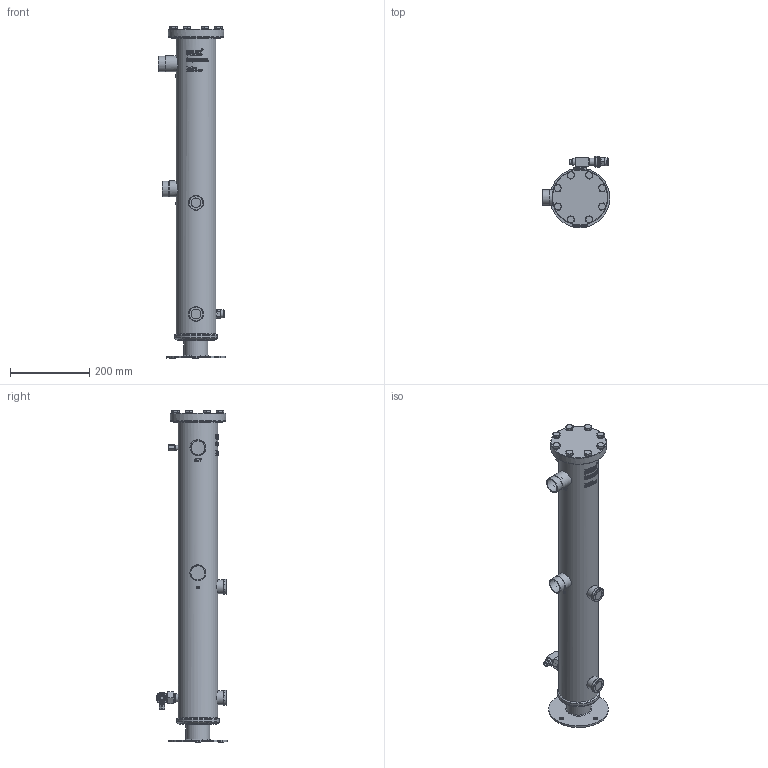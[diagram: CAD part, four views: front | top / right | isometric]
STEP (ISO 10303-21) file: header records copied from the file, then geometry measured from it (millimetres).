
FILE_DESCRIPTION(/* description */ (''),/* implementation_level */ '2;1');
FILE_NAME(/* name */ 'P:\OSR\BOS2-R-35F\BOS2-R-35F.stp',/* time_stamp */ '2017-10-05T09:00:06+02:00',/* author */ ('neufeld'),/* organization */ (''),/* preprocessor_version */ 'ST-DEVELOPER v16.1',/* originating_system */ 'Autodesk Inventor 2016',/* authorisation */ '');
FILE_SCHEMA (('AUTOMOTIVE_DESIGN { 1 0 10303 214 3 1 1 }'));
Products named in the file (3): BOS2-R-35F_1; BOS2-R-35F_2; BOS2-R-35F
Assembly tree (2 placements, depth 2):
  BOS2-R-35F
    BOS2-R-35F_1
    BOS2-R-35F_2
Bounding box: 170 x 179.8 x 836.2 mm (x, y, z)
Volume: 6685540.5 mm3; surface area: 372402.8 mm2
Topology: 2 solids, 5 shells, 1952 faces, 5192 edges, 3436 vertices
Faces by surface type: plane 954, bspline 534, cylinder 311, cone 140, torus 13
Full cylindrical faces by diameter (mm): 4 x1, 5 x1, 6.5 x1, 8.9 x1, 9 x1, 9.188 x8, 9.4 x1, 9.5 x1, 10 x16, 10.1 x1, 10.2 x1, 10.5 x8, 10.72 x1, 11 x5, 11.1 x1, 12 x1, 13 x1, 13.3 x1, 13.5 x1, 14 x1, 14.2 x1, 15.4 x8, 15.75 x1, 15.87 x1, 16.7 x1, 16.8 x1, 17.3 x1, 18 x1, 18.3 x1, 19 x1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
Entity records: 70818 total; most frequent: CARTESIAN_POINT 26272, ORIENTED_EDGE 9946, DIRECTION 7876, EDGE_CURVE 4961, VERTEX_POINT 3368, AXIS2_PLACEMENT_3D 2851, EDGE_LOOP 2327, LINE 2174
